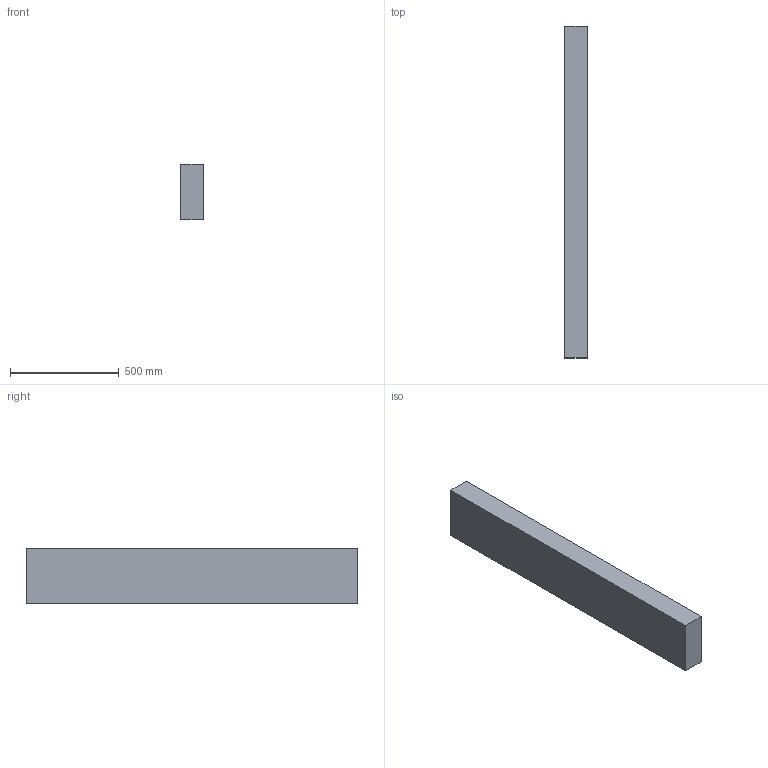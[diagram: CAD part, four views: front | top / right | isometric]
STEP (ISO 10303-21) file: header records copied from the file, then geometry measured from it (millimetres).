
FILE_DESCRIPTION(/* description */ (''),/* implementation_level */ '2;1');
FILE_NAME(/* name */ '4x10x60',/* time_stamp */ '2024-09-20T11:45:39-05:00',/* author */ (''),/* organization */ (''),/* preprocessor_version */ 'ST-DEVELOPER v19.2',/* originating_system */ 'Rhino 8.5',/* authorisation */ '');
FILE_SCHEMA (('CONFIG_CONTROL_DESIGN'));
Length unit declared in the file: inch
Products named in the file (1): Document
Bounding box: 101.6 x 1524 x 254 mm (x, y, z)
Volume: 39328953.6 mm3; surface area: 1135481.6 mm2
Topology: 1 solids, 1 shells, 6 faces, 12 edges, 8 vertices
Faces by surface type: plane 6
Entity records: 226 total; most frequent: CARTESIAN_POINT 40, ORIENTED_EDGE 24, EDGE_CURVE 12, B_SPLINE_CURVE_WITH_KNOTS 12, DIRECTION 10, VERTEX_POINT 8, AXIS2_PLACEMENT_3D 8, ORGANIZATION 7
